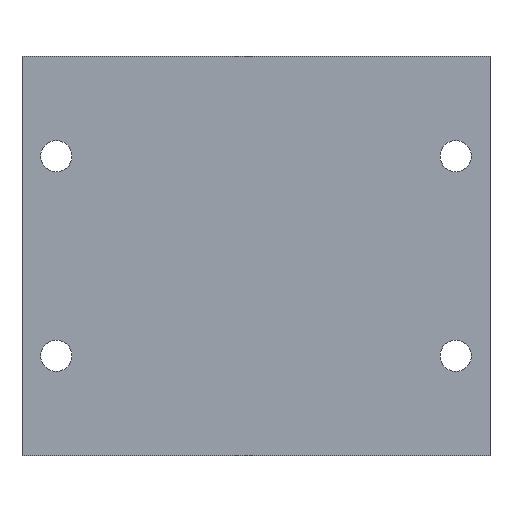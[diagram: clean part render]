
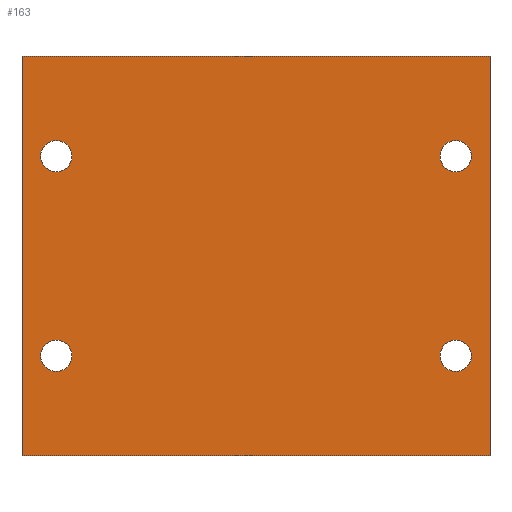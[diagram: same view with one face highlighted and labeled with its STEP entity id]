
A CAD part, left-side view. The second image highlights one B-rep face of the part: STEP entity #163.
In plain terms, the highlighted planar face has unit normal (-1, 0, 0).
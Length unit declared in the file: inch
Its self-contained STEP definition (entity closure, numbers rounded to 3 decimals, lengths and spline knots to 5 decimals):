
#19 = DIRECTION ( 'NONE',  ( -1., 0., 0. ) ) ;
#25 = FACE_BOUND ( 'NONE', #2660, .T. ) ;
#97 = DIRECTION ( 'NONE',  ( 0., 0., -1. ) ) ;
#140 = ORIENTED_EDGE ( 'NONE', *, *, #722, .F. ) ;
#163 = ADVANCED_FACE ( 'NONE', ( #1661, #2494, #25, #492, #177 ), #1918, .F. ) ;
#177 = FACE_BOUND ( 'NONE', #807, .T. ) ;
#179 = CARTESIAN_POINT ( 'NONE',  ( 0., 2.95276, 0. ) ) ;
#185 = ORIENTED_EDGE ( 'NONE', *, *, #1656, .F. ) ;
#189 = LINE ( 'NONE', #838, #3121 ) ;
#329 = ORIENTED_EDGE ( 'NONE', *, *, #1288, .F. ) ;
#356 = EDGE_LOOP ( 'NONE', ( #1360, #2193 ) ) ;
#375 = CARTESIAN_POINT ( 'NONE',  ( 0., 0.21654, 1.88976 ) ) ;
#379 = CIRCLE ( 'NONE', #2501, 0.09843 ) ;
#406 = ORIENTED_EDGE ( 'NONE', *, *, #1807, .F. ) ;
#419 = CARTESIAN_POINT ( 'NONE',  ( 0., 0.21654, 0.5315 ) ) ;
#491 = CARTESIAN_POINT ( 'NONE',  ( 0., 0., 2.51969 ) ) ;
#492 = FACE_BOUND ( 'NONE', #1029, .T. ) ;
#520 = CIRCLE ( 'NONE', #2141, 0.09843 ) ;
#569 = CARTESIAN_POINT ( 'NONE',  ( 0., 2.73622, 0.62992 ) ) ;
#688 = DIRECTION ( 'NONE',  ( 0., 0., -1. ) ) ;
#722 = EDGE_CURVE ( 'NONE', #2267, #2089, #3099, .T. ) ;
#735 = EDGE_CURVE ( 'NONE', #2618, #2267, #2252, .T. ) ;
#807 = EDGE_LOOP ( 'NONE', ( #961, #185 ) ) ;
#838 = CARTESIAN_POINT ( 'NONE',  ( 0., 0., 2.51969 ) ) ;
#859 = AXIS2_PLACEMENT_3D ( 'NONE', #1396, #2619, #2886 ) ;
#868 = CARTESIAN_POINT ( 'NONE',  ( 0., 2.73622, 1.98819 ) ) ;
#870 = CARTESIAN_POINT ( 'NONE',  ( 0., 0., 2.51969 ) ) ;
#873 = EDGE_CURVE ( 'NONE', #2089, #2848, #1806, .T. ) ;
#930 = DIRECTION ( 'NONE',  ( 0., 0., -1. ) ) ;
#935 = DIRECTION ( 'NONE',  ( -1., 0., 0. ) ) ;
#961 = ORIENTED_EDGE ( 'NONE', *, *, #1758, .F. ) ;
#963 = VERTEX_POINT ( 'NONE', #2547 ) ;
#1007 = CARTESIAN_POINT ( 'NONE',  ( 0., 0., 0. ) ) ;
#1010 = CIRCLE ( 'NONE', #2836, 0.09843 ) ;
#1029 = EDGE_LOOP ( 'NONE', ( #2664, #329 ) ) ;
#1133 = DIRECTION ( 'NONE',  ( -1., 0., 0. ) ) ;
#1135 = DIRECTION ( 'NONE',  ( -1., 0., 0. ) ) ;
#1163 = VECTOR ( 'NONE', #2694, 39.37008 ) ;
#1201 = EDGE_CURVE ( 'NONE', #3024, #2725, #1374, .T. ) ;
#1219 = VERTEX_POINT ( 'NONE', #2105 ) ;
#1235 = DIRECTION ( 'NONE',  ( -1., 0., 0. ) ) ;
#1254 = CARTESIAN_POINT ( 'NONE',  ( 0., 2.73622, 0.72835 ) ) ;
#1280 = CARTESIAN_POINT ( 'NONE',  ( 0., 0.21654, 0.72835 ) ) ;
#1288 = EDGE_CURVE ( 'NONE', #3076, #1637, #1559, .T. ) ;
#1360 = ORIENTED_EDGE ( 'NONE', *, *, #2169, .F. ) ;
#1374 = CIRCLE ( 'NONE', #2010, 0.09843 ) ;
#1396 = CARTESIAN_POINT ( 'NONE',  ( 0., 2.73622, 1.88976 ) ) ;
#1421 = CARTESIAN_POINT ( 'NONE',  ( 0., 2.95276, 2.51969 ) ) ;
#1431 = CARTESIAN_POINT ( 'NONE',  ( 0., 0., 0. ) ) ;
#1462 = DIRECTION ( 'NONE',  ( 0., 0., -1. ) ) ;
#1467 = DIRECTION ( 'NONE',  ( 0., 1., 0. ) ) ;
#1470 = CARTESIAN_POINT ( 'NONE',  ( 0., 0., 2.51969 ) ) ;
#1508 = DIRECTION ( 'NONE',  ( -1., 0., 0. ) ) ;
#1512 = CIRCLE ( 'NONE', #2955, 0.09843 ) ;
#1559 = CIRCLE ( 'NONE', #859, 0.09843 ) ;
#1601 = AXIS2_PLACEMENT_3D ( 'NONE', #1470, #1712, #2707 ) ;
#1622 = CARTESIAN_POINT ( 'NONE',  ( 0., 0.21654, 1.88976 ) ) ;
#1637 = VERTEX_POINT ( 'NONE', #3002 ) ;
#1656 = EDGE_CURVE ( 'NONE', #2556, #1219, #1010, .T. ) ;
#1661 = FACE_OUTER_BOUND ( 'NONE', #2134, .T. ) ;
#1706 = CIRCLE ( 'NONE', #2794, 0.09843 ) ;
#1712 = DIRECTION ( 'NONE',  ( 1., 0., 0. ) ) ;
#1758 = EDGE_CURVE ( 'NONE', #1219, #2556, #379, .T. ) ;
#1806 = LINE ( 'NONE', #2473, #1163 ) ;
#1807 = EDGE_CURVE ( 'NONE', #963, #2911, #520, .T. ) ;
#1888 = DIRECTION ( 'NONE',  ( 0., 0., -1. ) ) ;
#1911 = CARTESIAN_POINT ( 'NONE',  ( 0., 0.21654, 0.62992 ) ) ;
#1918 = PLANE ( 'NONE',  #1601 ) ;
#1939 = DIRECTION ( 'NONE',  ( 0., 0., -1. ) ) ;
#2001 = CARTESIAN_POINT ( 'NONE',  ( 0., 0.21654, 1.98819 ) ) ;
#2010 = AXIS2_PLACEMENT_3D ( 'NONE', #1911, #19, #930 ) ;
#2051 = DIRECTION ( 'NONE',  ( -1., 0., 0. ) ) ;
#2089 = VERTEX_POINT ( 'NONE', #179 ) ;
#2105 = CARTESIAN_POINT ( 'NONE',  ( 0., 0.21654, 1.79134 ) ) ;
#2129 = CARTESIAN_POINT ( 'NONE',  ( 0., 2.73622, 1.88976 ) ) ;
#2134 = EDGE_LOOP ( 'NONE', ( #2510, #2883, #2239, #140 ) ) ;
#2141 = AXIS2_PLACEMENT_3D ( 'NONE', #2585, #1133, #1888 ) ;
#2169 = EDGE_CURVE ( 'NONE', #2725, #3024, #2744, .T. ) ;
#2193 = ORIENTED_EDGE ( 'NONE', *, *, #1201, .F. ) ;
#2208 = CARTESIAN_POINT ( 'NONE',  ( 0., 0.21654, 0.62992 ) ) ;
#2239 = ORIENTED_EDGE ( 'NONE', *, *, #873, .F. ) ;
#2252 = LINE ( 'NONE', #491, #2413 ) ;
#2267 = VERTEX_POINT ( 'NONE', #1007 ) ;
#2290 = DIRECTION ( 'NONE',  ( 0., 0., -1. ) ) ;
#2413 = VECTOR ( 'NONE', #1939, 39.37008 ) ;
#2461 = EDGE_CURVE ( 'NONE', #2911, #963, #1512, .T. ) ;
#2473 = CARTESIAN_POINT ( 'NONE',  ( 0., 2.95276, 2.51969 ) ) ;
#2494 = FACE_BOUND ( 'NONE', #356, .T. ) ;
#2501 = AXIS2_PLACEMENT_3D ( 'NONE', #1622, #935, #688 ) ;
#2510 = ORIENTED_EDGE ( 'NONE', *, *, #735, .F. ) ;
#2547 = CARTESIAN_POINT ( 'NONE',  ( 0., 2.73622, 0.5315 ) ) ;
#2556 = VERTEX_POINT ( 'NONE', #2001 ) ;
#2585 = CARTESIAN_POINT ( 'NONE',  ( 0., 2.73622, 0.62992 ) ) ;
#2618 = VERTEX_POINT ( 'NONE', #870 ) ;
#2619 = DIRECTION ( 'NONE',  ( -1., 0., 0. ) ) ;
#2660 = EDGE_LOOP ( 'NONE', ( #406, #2888 ) ) ;
#2664 = ORIENTED_EDGE ( 'NONE', *, *, #2671, .F. ) ;
#2671 = EDGE_CURVE ( 'NONE', #1637, #3076, #1706, .T. ) ;
#2694 = DIRECTION ( 'NONE',  ( 0., 0., 1. ) ) ;
#2700 = AXIS2_PLACEMENT_3D ( 'NONE', #2208, #1235, #1462 ) ;
#2707 = DIRECTION ( 'NONE',  ( 0., 0., -1. ) ) ;
#2725 = VERTEX_POINT ( 'NONE', #419 ) ;
#2744 = CIRCLE ( 'NONE', #2700, 0.09843 ) ;
#2794 = AXIS2_PLACEMENT_3D ( 'NONE', #2129, #1135, #3106 ) ;
#2836 = AXIS2_PLACEMENT_3D ( 'NONE', #375, #2051, #2290 ) ;
#2848 = VERTEX_POINT ( 'NONE', #1421 ) ;
#2883 = ORIENTED_EDGE ( 'NONE', *, *, #2964, .F. ) ;
#2886 = DIRECTION ( 'NONE',  ( 0., 0., -1. ) ) ;
#2888 = ORIENTED_EDGE ( 'NONE', *, *, #2461, .F. ) ;
#2911 = VERTEX_POINT ( 'NONE', #1254 ) ;
#2955 = AXIS2_PLACEMENT_3D ( 'NONE', #569, #1508, #97 ) ;
#2964 = EDGE_CURVE ( 'NONE', #2848, #2618, #189, .T. ) ;
#2977 = DIRECTION ( 'NONE',  ( 0., -1., 0. ) ) ;
#3002 = CARTESIAN_POINT ( 'NONE',  ( 0., 2.73622, 1.79134 ) ) ;
#3024 = VERTEX_POINT ( 'NONE', #1280 ) ;
#3056 = VECTOR ( 'NONE', #1467, 39.37008 ) ;
#3076 = VERTEX_POINT ( 'NONE', #868 ) ;
#3099 = LINE ( 'NONE', #1431, #3056 ) ;
#3106 = DIRECTION ( 'NONE',  ( 0., 0., -1. ) ) ;
#3121 = VECTOR ( 'NONE', #2977, 39.37008 ) ;
